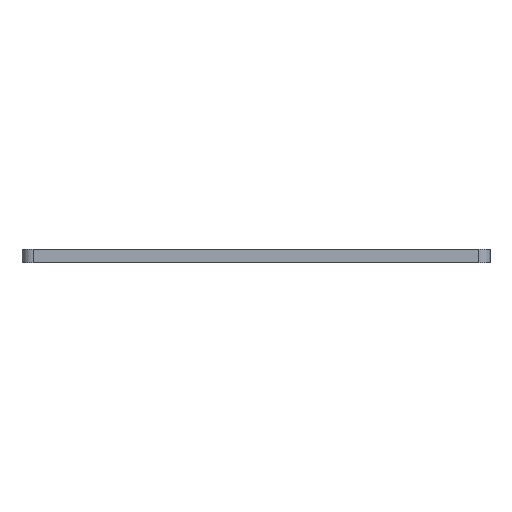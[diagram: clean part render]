
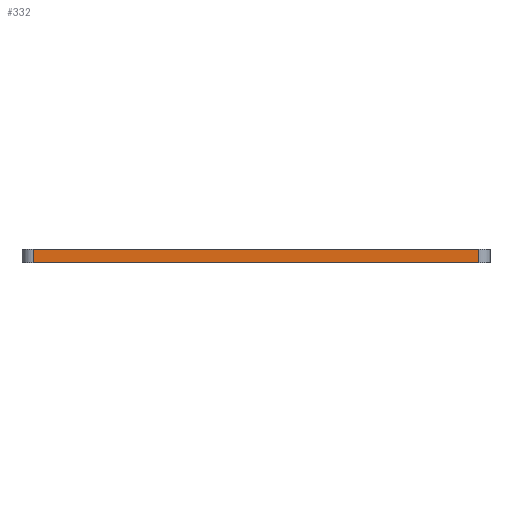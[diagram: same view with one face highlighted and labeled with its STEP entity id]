
A CAD part, left-side view. The second image highlights one B-rep face of the part: STEP entity #332.
In plain terms, the highlighted planar face has unit normal (-1, 0, 0).
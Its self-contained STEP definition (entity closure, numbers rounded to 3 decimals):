
#7 = VERTEX_POINT ( 'NONE', #246 ) ;
#8 = LINE ( 'NONE', #688, #531 ) ;
#11 = VERTEX_POINT ( 'NONE', #184 ) ;
#58 = DIRECTION ( 'NONE',  ( 0., 1., 0. ) ) ;
#97 = ORIENTED_EDGE ( 'NONE', *, *, #335, .T. ) ;
#110 = VECTOR ( 'NONE', #285, 1000. ) ;
#132 = DIRECTION ( 'NONE',  ( 1., 0., 0. ) ) ;
#184 = CARTESIAN_POINT ( 'NONE',  ( 0., 2., 1.25 ) ) ;
#196 = CARTESIAN_POINT ( 'NONE',  ( 0., 85., 1.25 ) ) ;
#197 = VERTEX_POINT ( 'NONE', #216 ) ;
#216 = CARTESIAN_POINT ( 'NONE',  ( 0., 2., -1.25 ) ) ;
#229 = ORIENTED_EDGE ( 'NONE', *, *, #418, .F. ) ;
#246 = CARTESIAN_POINT ( 'NONE',  ( 0., 83., -1.25 ) ) ;
#257 = EDGE_LOOP ( 'NONE', ( #505, #557, #229, #97 ) ) ;
#258 = PLANE ( 'NONE',  #459 ) ;
#285 = DIRECTION ( 'NONE',  ( 0., -1., 0. ) ) ;
#332 = ADVANCED_FACE ( 'NONE', ( #422 ), #258, .F. ) ;
#335 = EDGE_CURVE ( 'NONE', #691, #7, #751, .T. ) ;
#375 = CARTESIAN_POINT ( 'NONE',  ( 0., 85., 1.25 ) ) ;
#398 = EDGE_CURVE ( 'NONE', #197, #11, #8, .T. ) ;
#418 = EDGE_CURVE ( 'NONE', #691, #11, #464, .T. ) ;
#422 = FACE_OUTER_BOUND ( 'NONE', #257, .T. ) ;
#452 = DIRECTION ( 'NONE',  ( 0., -1., 0. ) ) ;
#459 = AXIS2_PLACEMENT_3D ( 'NONE', #196, #132, #58 ) ;
#464 = LINE ( 'NONE', #375, #110 ) ;
#505 = ORIENTED_EDGE ( 'NONE', *, *, #701, .T. ) ;
#521 = CARTESIAN_POINT ( 'NONE',  ( 0., 85., -1.25 ) ) ;
#527 = VECTOR ( 'NONE', #555, 1000. ) ;
#531 = VECTOR ( 'NONE', #582, 1000. ) ;
#555 = DIRECTION ( 'NONE',  ( 0., 0., -1. ) ) ;
#557 = ORIENTED_EDGE ( 'NONE', *, *, #398, .T. ) ;
#582 = DIRECTION ( 'NONE',  ( 0., 0., 1. ) ) ;
#598 = LINE ( 'NONE', #521, #685 ) ;
#649 = CARTESIAN_POINT ( 'NONE',  ( 0., 83., 1.25 ) ) ;
#685 = VECTOR ( 'NONE', #452, 1000. ) ;
#688 = CARTESIAN_POINT ( 'NONE',  ( 0., 2., 1.25 ) ) ;
#691 = VERTEX_POINT ( 'NONE', #730 ) ;
#701 = EDGE_CURVE ( 'NONE', #7, #197, #598, .T. ) ;
#730 = CARTESIAN_POINT ( 'NONE',  ( 0., 83., 1.25 ) ) ;
#751 = LINE ( 'NONE', #649, #527 ) ;
